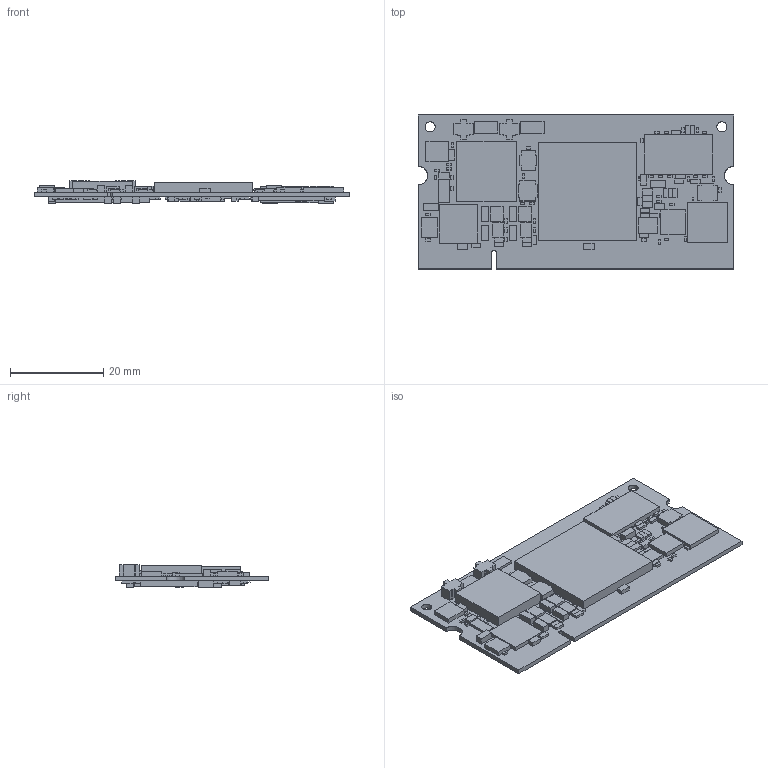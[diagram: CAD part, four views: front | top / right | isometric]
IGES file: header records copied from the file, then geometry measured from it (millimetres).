
Start section: SolidWorks IGES file using analytic representation for surfaces
Global section: file name: C:\Users\LAB\Desktop\New folder (2)\BoardFiles\VAR_SOM_SOLO_V1-02_FINAL.IGS; native system: SolidWorks 2013; preprocessor: SolidWorks 2013; author: LAB; date: 170323.180251; units: metre
Bounding box: 67.6 x 32.99 x 4.9 mm (x, y, z)
Surface area: 10101.1 mm2 (no closed solid volume)
Topology: 0 solids, 0 shells, 2304 faces, 10954 edges, 10954 vertices
Faces by surface type: bspline 2287, revolution 17
